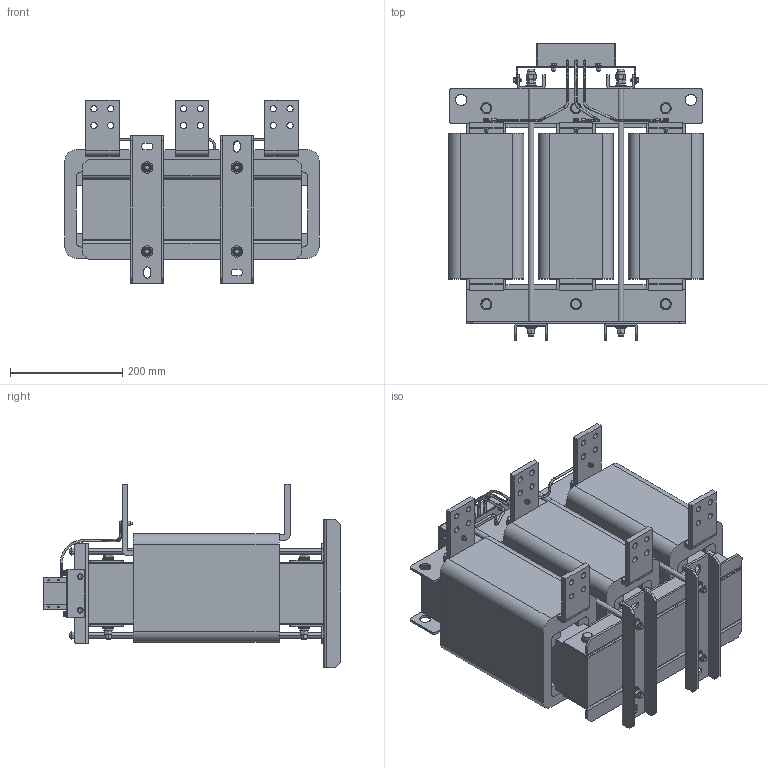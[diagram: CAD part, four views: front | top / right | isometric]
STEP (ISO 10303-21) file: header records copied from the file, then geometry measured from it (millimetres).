
FILE_DESCRIPTION (( 'STEP AP203' ), '1' );
FILE_NAME ('婰錪襝 dU_dT _ IDUDT-710_765-6.STEP', '2026-05-08T07:31:34', ( '' ), ( '' ), 'SwSTEP 2.0', 'SolidWorks 2021', '' );
FILE_SCHEMA (( 'CONFIG_CONTROL_DESIGN' ));
Length unit declared in the file: millimetre
Products named in the file (67): 拉板条1×70×420; M10ﾂﾝﾄｸ+ｵｯ+ﾆｽ_5; M5｡ﾁ10ﾂﾝﾋｨ+1ﾆｽ_7; 线圈-836A-DVT_5; spring lock washers--normal type gb_GB_FASTENER_WASHER_SW 10; M10ﾂﾝﾄｸ+ｵｯ+ﾋｫﾆｽ_4; plain washers--product grade c gb_GB_FASTENER_WASHER_SMWC 10; M5℅10坋趼蹟邡; M10ﾂﾝﾄｸ+ｵｯ+ﾆｽ_4; M5｡ﾁ10ﾂﾝﾋｨ+1ﾆｽ_5; M10ﾂﾝﾄｸ+ｵｯ+ﾆｽ_6; 线圈-836A-DVT_9; DVT外母排L-60×10-100; 线圈-836A-DVT; 线圈-836A-DVT_7; plain washers--product grade c gb_GB_FASTENER_WASHER_SMWC 5; 线圈-836A-DVT_13; 婰錪襝 dU_dT _ IDUDT-710_765-6; M10ﾂﾝﾄｸ+ｵｯ+ﾋｫﾆｽ_1; 线圈-836A-DVT_8; M5｡ﾁ20ﾂﾝﾋｨ+1ﾆｽ; M10ﾂﾝﾄｸ+ｵｯ+ﾆｽ_2; 线圈-836A-DVT_1; M5｡ﾁ10ﾂﾝﾋｨ+1ﾆｽ_1; ﾏﾂｼﾐｼ-390｡ﾁ62｡ﾁ35; 线圈-836A-DVT_14; M10℅470蹟裝; 线圈-836A-DVT_10; M10ﾂﾝﾄｸ+ｵｯ+ﾋｫﾆｽ_2; RNB5.5-5; Uﾐﾎｵﾗｽﾅ60｡ﾁ30｡ﾁ265; 线圈-836A-DVT_12; M5｡ﾁ10ﾂﾝﾋｨ+1ﾆｽ_2; 线圈-836A-DVT_2; 836A-电容引线; 线圈-836A-DVT_3; M10ﾂﾝﾄｸ+ｵｯ+ﾆｽ_3; 线圈-836A-DVT_6; 836A-电容引线_1; 线圈-836A-DVT_11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
Assembly tree (179 placements, depth 3):
  婰錪襝 dU_dT _ IDUDT-710_765-6
    三相铁芯390-70-108-H420
    拉板条1×70×420  x6
    上夹件-450×62×4-500A  x2
    ﾏﾂｼﾐｼ-390｡ﾁ62｡ﾁ35  x2
    DVT-U形压条50×4×180  x2
    Uﾐﾎｵﾗｽﾅ60｡ﾁ30｡ﾁ265  x2
    M10ﾂﾝﾄｸ+ｵｯ+ﾆｽ
      hex nut-fine pitch-style washer-grade ab gb_GB_HEXAGON_TYPE10_1 M8X1-N
      spring lock washers--normal type gb_GB_FASTENER_WASHER_SW 10
      plain washers--product grade c gb_GB_FASTENER_WASHER_SMWC 10
    M10ﾂﾝﾄｸ+ｵｯ+ﾆｽ_1
      hex nut-fine pitch-style washer-grade ab gb_GB_HEXAGON_TYPE10_1 M8X1-N
      spring lock washers--normal type gb_GB_FASTENER_WASHER_SW 10
      plain washers--product grade c gb_GB_FASTENER_WASHER_SMWC 10
    M10℅470蹟裝  x4
    M10裔簽  x4
    M10ﾂﾝﾄｸ+ｵｯ+ﾋｫﾆｽ
      hex nut-fine pitch-style washer-grade ab gb_GB_HEXAGON_TYPE10_1 M8X1-N
      spring lock washers--normal type gb_GB_FASTENER_WASHER_SW 10
      plain washers--product grade c gb_GB_FASTENER_WASHER_SMWC 10  x2
    M10ﾂﾝﾄｸ+ｵｯ+ﾋｫﾆｽ_1
      hex nut-fine pitch-style washer-grade ab gb_GB_HEXAGON_TYPE10_1 M8X1-N
      spring lock washers--normal type gb_GB_FASTENER_WASHER_SW 10
      plain washers--product grade c gb_GB_FASTENER_WASHER_SMWC 10  x2
    plain washers--product grade c gb_GB_FASTENER_WASHER_SMWC 10  x12
    M10℅140  x6
    M10ﾂﾝﾄｸ+ｵｯ+ﾋｫﾆｽ_2
      hex nut-fine pitch-style washer-grade ab gb_GB_HEXAGON_TYPE10_1 M8X1-N
      spring lock washers--normal type gb_GB_FASTENER_WASHER_SW 10
      plain washers--product grade c gb_GB_FASTENER_WASHER_SMWC 10  x2
    M10ﾂﾝﾄｸ+ｵｯ+ﾋｫﾆｽ_3
      hex nut-fine pitch-style washer-grade ab gb_GB_HEXAGON_TYPE10_1 M8X1-N
      spring lock washers--normal type gb_GB_FASTENER_WASHER_SW 10
      plain washers--product grade c gb_GB_FASTENER_WASHER_SMWC 10  x2
    M10ﾂﾝﾄｸ+ｵｯ+ﾋｫﾆｽ_4
      hex nut-fine pitch-style washer-grade ab gb_GB_HEXAGON_TYPE10_1 M8X1-N
      spring lock washers--normal type gb_GB_FASTENER_WASHER_SW 10
      plain washers--product grade c gb_GB_FASTENER_WASHER_SMWC 10  x2
    M10ﾂﾝﾄｸ+ｵｯ+ﾋｫﾆｽ_5
      hex nut-fine pitch-style washer-grade ab gb_GB_HEXAGON_TYPE10_1 M8X1-N
      spring lock washers--normal type gb_GB_FASTENER_WASHER_SW 10
      plain washers--product grade c gb_GB_FASTENER_WASHER_SMWC 10  x2
    M10ﾂﾝﾄｸ+ｵｯ+ﾆｽ_2
      hex nut-fine pitch-style washer-grade ab gb_GB_HEXAGON_TYPE10_1 M8X1-N
      spring lock washers--normal type gb_GB_FASTENER_WASHER_SW 10
      plain washers--product grade c gb_GB_FASTENER_WASHER_SMWC 10
    M10ﾂﾝﾄｸ+ｵｯ+ﾆｽ_3
      hex nut-fine pitch-style washer-grade ab gb_GB_HEXAGON_TYPE10_1 M8X1-N
      spring lock washers--normal type gb_GB_FASTENER_WASHER_SW 10
      plain washers--product grade c gb_GB_FASTENER_WASHER_SMWC 10
    M10ﾂﾝﾄｸ+ｵｯ+ﾆｽ_4
      hex nut-fine pitch-style washer-grade ab gb_GB_HEXAGON_TYPE10_1 M8X1-N
      spring lock washers--normal type gb_GB_FASTENER_WASHER_SW 10
      plain washers--product grade c gb_GB_FASTENER_WASHER_SMWC 10
    M10ﾂﾝﾄｸ+ｵｯ+ﾆｽ_5
      hex nut-fine pitch-style washer-grade ab gb_GB_HEXAGON_TYPE10_1 M8X1-N
      spring lock washers--normal type gb_GB_FASTENER_WASHER_SW 10
      plain washers--product grade c gb_GB_FASTENER_WASHER_SMWC 10
    M10ﾂﾝﾄｸ+ｵｯ+ﾆｽ_6
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Bounding box: 454 x 531 x 327.5 mm (x, y, z)
Volume: 25547456.7 mm3; surface area: 2999898.5 mm2
Topology: 152 solids, 152 shells, 5441 faces, 14190 edges, 9267 vertices
Faces by surface type: plane 2956, bspline 1240, cylinder 895, cone 350
Entity records: 47024 total; most frequent: CARTESIAN_POINT 11225, DIRECTION 5324, ORIENTED_EDGE 5272, EDGE_CURVE 2636, AXIS2_PLACEMENT_3D 1837, VERTEX_POINT 1718, LINE 1650, VECTOR 1650
